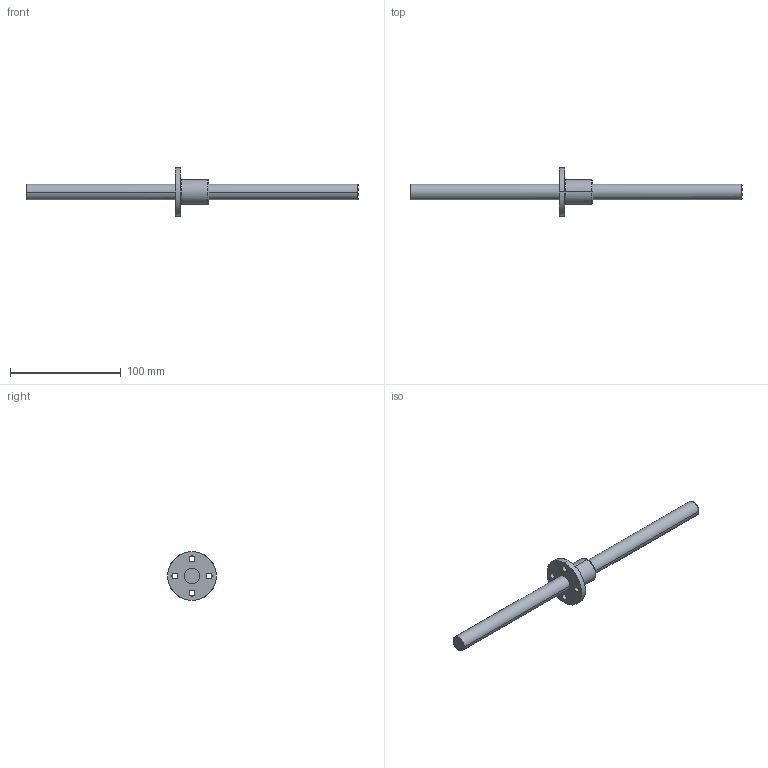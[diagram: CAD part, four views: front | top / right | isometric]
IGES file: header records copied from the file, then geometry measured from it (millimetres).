
Global section: file name: No Iges File Name specified; native system: AutoDesk Inventor R10; preprocessor: AutoDesk Inventor Iges Exporter R10; author: No Author specified; organization: No Organization specified; date: 20101224.144451; units: millimetre
Bounding box: 300 x 44 x 44 mm (x, y, z)
Surface area: 20085.5 mm2 (no closed solid volume)
Topology: 0 solids, 0 shells, 25 faces, 186 edges, 186 vertices
Faces by surface type: bspline 25
